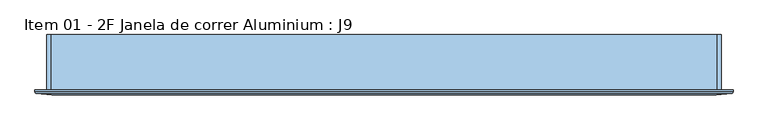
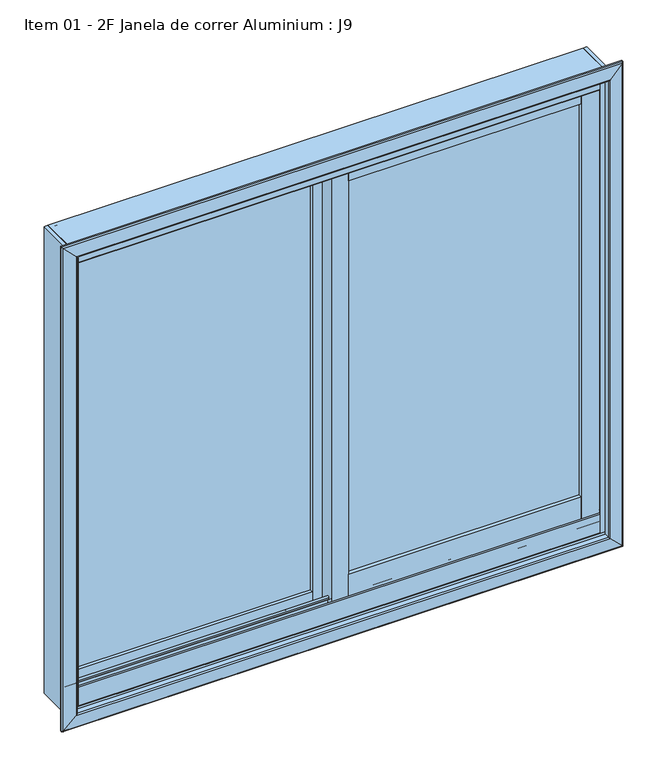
"""IFC4 building model written with IfcOpenShell, lengths in millimetres: window geometry, Item 01 - 2F Janela de correr Aluminium : J9."""

from ifc_helpers import new_model, si_unit, frame, origin, place, context, project, spatial, polyline, circle_curve, ellipse_curve, outline, extrude, source, transform, mapped, element, save
from ifc_brep_helpers import plane_surface, cylinder_surface, revolved_surface, advanced_brep


def item_01_2f_janela_de_correr_aluminium_j9_3c347c91(model_context):
    return source(origin(), model_context, "Body", "SolidModel", [
        extrude(outline(polyline([(-27.3998339, -10.3), (-27.3998339, -14.3), (-504.750983, -14.3), (-504.750983, -10.3), (-27.3998339, -10.3)])), frame((0.0, 0.0, 857.0), z_axis=(0.0, 0.0, 1.0), x_axis=(1.0, 0.0, 0.0)), (0.0, 0.0, 1.0), 880.5),
        extrude(outline(polyline([(27.2998339, -45.9), (27.2998339, -41.9), (498.868646, -41.9), (498.868646, -45.9), (27.2998339, -45.9)])), frame((0.0, 0.0, 895.5), z_axis=(0.0, 0.0, 1.0), x_axis=(1.0, 0.0, 0.0)), (0.0, 0.0, 1.0), 842.0),
        extrude(outline(polyline([(498.868646, -33.9), (498.868646, -53.9), (27.2998339, -53.9), (27.2998339, -33.9), (498.868646, -33.9)])), frame((0.0, 0.0, 847.9996573), z_axis=(0.0, 0.0, 1.0), x_axis=(1.0, 0.0, 0.0)), (0.0, 0.0, 1.0), 47.5003427),
        extrude(outline(polyline([(498.868646, -33.9), (498.868646, -53.9), (27.2998339, -53.9), (27.2998339, -33.9), (498.868646, -33.9)])), frame((0.0, 0.0, 1737.4996573), z_axis=(0.0, 0.0, 1.0), x_axis=(1.0, 0.0, 0.0)), (0.0, 0.0, 1.0), 34.5),
        extrude(outline(polyline([(-27.3998339, -2.3), (-27.3998339, -22.3), (-504.750983, -22.3), (-504.750983, -2.3), (-27.3998339, -2.3)])), frame((0.0, 0.0, 821.0), z_axis=(0.0, 0.0, 1.0), x_axis=(1.0, 0.0, 0.0)), (0.0, 0.0, 1.0), 36.0),
        extrude(outline(polyline([(-27.3998339, -2.3), (-27.3998339, -22.3), (-504.750983, -22.3), (-504.750983, -2.3), (-27.3998339, -2.3)])), frame((0.0, 0.0, 1737.5), z_axis=(0.0, 0.0, 1.0), x_axis=(1.0, 0.0, 0.0)), (0.0, 0.0, 1.0), 34.5),
        extrude(outline(polyline([(-504.750983, -22.3), (-543.0, -22.3), (-543.0, -2.3), (-504.750983, -2.3), (-504.750983, -22.3)])), frame((0.0, 0.0, 821.0), z_axis=(0.0, 0.0, 1.0), x_axis=(1.0, 0.0, 0.0)), (0.0, 0.0, 1.0), 951.0),
        extrude(outline(polyline([(-27.3998339, -22.3), (-27.3998339, -2.3), (7.6001661, -2.3), (7.6001661, -33.9), (27.2998339, -33.9), (27.2998339, -53.9), (-7.6001661, -53.9), (-7.6001661, -22.3), (-27.3998339, -22.3)])), frame((0.0, 0.0, 821.0), z_axis=(0.0, 0.0, 1.0), x_axis=(1.0, 0.0, 0.0)), (0.0, 0.0, 1.0), 951.0),
        extrude(outline(polyline([(543.0, -53.9), (498.868646, -53.9), (498.868646, -33.9), (543.0, -33.9), (543.0, -53.9)])), frame((0.0, 0.0, 821.0), z_axis=(0.0, 0.0, 1.0), x_axis=(1.0, 0.0, 0.0)), (0.0, 0.0, 1.0), 951.0),
        advanced_brep(
        [(-542.5998339, 8.5620965, 810.2470077), (-542.5998339, 8.5620965, 801.4000436), (-542.5998339, 13.600001, 801.4000436), (-542.5998339, 13.600001, 807.4000364), (-542.5998339, 14.9999993, 807.4000364), (-542.5998339, 15.0, 800.0), (-542.5998339, -75.0, 800.0), (-542.5998339, -75.0, 807.4000364), (-542.5998339, -73.6000017, 807.4000364), (-542.5998339, -73.6000017, 801.3999983), (-542.5998339, -68.6000077, 801.3999983), (-542.5998339, -68.6000077, 815.5000406), (-542.5998339, -66.9001002, 815.5000406), (-542.5998339, -66.9002002, 855.4959852), (-542.5998339, -63.9002108, 855.4999745), (-542.5998339, -63.9002039, 852.9999952), (-542.5998339, -65.5001025, 852.0762974), (-542.5998339, -65.4999102, 840.5017467), (-542.5998339, -64.5522917, 839.4937615), (-542.5998339, -42.5000392, 838.337999), (-542.5998339, -42.5000392, 852.496362), (-542.5998339, -44.7000484, 852.496362), (-542.5998339, -44.7000484, 848.6999865), (-542.5998339, -46.1007067, 848.6999865), (-542.5998339, -46.1007067, 852.4947997), (-542.5998339, -41.099933, 852.4947997), (-542.5998339, -41.099933, 838.2646991), (-542.5998339, -39.464205, 838.1789418), (-542.5998339, -35.731283, 834.861102), (-542.5998339, -32.3590937, 815.7367048), (-542.5998339, -29.9346709, 813.5917613), (-542.5998339, -14.4999651, 812.7828298), (-542.5998339, -14.4999651, 825.4891381), (-542.5998339, -9.4999947, 825.4999956), (-542.5998339, -9.4999711, 821.7000191), (-542.5998339, -10.8999694, 821.7000191), (-542.5998339, -10.8999694, 825.4963945), (-542.5998339, -13.0999825, 825.4963945), (-542.5998339, -13.0999825, 812.7095299), (-542.5998339, 7.2297593, 811.6448774), (542.5998339, 8.5620965, 810.2470077), (542.5998339, 8.5620965, 801.4000436), (542.5998339, 13.600001, 801.4000436), (542.5998339, 13.600001, 807.4000364), (542.5998339, 14.9999993, 807.4000364), (542.5998339, 15.0, 800.0), (542.5998339, -75.0, 800.0), (542.5998339, -75.0, 807.4000364), (542.5998339, -73.6000017, 807.4000364), (542.5998339, -73.6000017, 801.3999983), (542.5998339, -68.6000077, 801.3999983), (542.5998339, -68.6000077, 815.5000406), (542.5998339, -66.9001002, 815.5000406), (542.5998339, -66.9002002, 855.4959852), (542.5998339, -63.9002108, 855.4999745), (542.5998339, -63.9002039, 852.9999952), (542.5998339, -65.5001025, 852.0762974), (542.5998339, -65.4999102, 840.5017467), (542.5998339, -64.5522917, 839.4937615), (542.5998339, -42.5000392, 838.337999), (542.5998339, -42.5000392, 852.496362), (542.5998339, -44.7000484, 852.496362), (542.5998339, -44.7000484, 848.6999865), (542.5998339, -46.1007067, 848.6999865), (542.5998339, -46.1007067, 852.4947997), (542.5998339, -41.099933, 852.4947997), (542.5998339, -41.099933, 838.2646991), (542.5998339, -39.464205, 838.1789418), (542.5998339, -35.731283, 834.861102), (542.5998339, -32.3590937, 815.7367048), (542.5998339, -29.9346709, 813.5917613), (542.5998339, -14.4999651, 812.7828298), (542.5998339, -14.4999651, 825.4891381), (542.5998339, -9.4999947, 825.4999956), (542.5998339, -9.4999711, 821.7000191), (542.5998339, -10.8999694, 821.7000191), (542.5998339, -10.8999694, 825.4963945), (542.5998339, -13.0999825, 825.4963945), (542.5998339, -13.0999825, 812.7095299), (542.5998339, 7.2297593, 811.6448774)],
        [
            (0, 1),
            (1, 2),
            (2, 3),
            (3, 4),
            (4, 5),
            (5, 6),
            (6, 7),
            (7, 8),
            (8, 9),
            (9, 10),
            (10, 11),
            (11, 12),
            (12, 13),
            (13, 14, circle_curve(frame((-542.5998339, -65.4002082, 855.4999743), z_axis=(-1.0, 0.0, 0.0), x_axis=(0.0, 0.0, 1.0)), 1.4999974)),
            (14, 15),
            (15, 16),
            (16, 17),
            (17, 18, circle_curve(frame((-542.5998339, -64.4999552, 840.4923898), z_axis=(1.0, 0.0, 0.0), x_axis=(0.0, 0.0, 1.0)), 0.9999988)),
            (18, 19),
            (19, 20),
            (20, 21, circle_curve(frame((-542.5998339, -43.6000438, 852.496362), z_axis=(1.0, 0.0, 0.0), x_axis=(0.0, 0.0, 1.0)), 1.1000046)),
            (21, 22),
            (22, 23, circle_curve(frame((-542.5998339, -45.4003775, 848.6999865), z_axis=(-1.0, 0.0, 0.0), x_axis=(0.0, 0.0, 1.0)), 0.7003292)),
            (23, 24),
            (24, 25, circle_curve(frame((-542.5998339, -43.6003199, 852.4947997), z_axis=(-1.0, 0.0, 0.0), x_axis=(0.0, 0.0, 1.0)), 2.5003869)),
            (25, 26),
            (26, 27),
            (27, 28, circle_curve(frame((-542.5998339, -39.6736275, 834.1844326), z_axis=(-1.0, 0.0, 0.0), x_axis=(0.0, 0.0, 1.0)), 3.9999952)),
            (28, 29),
            (29, 30, circle_curve(frame((-542.5998339, -29.7985976, 816.188195), z_axis=(1.0, 0.0, 0.0), x_axis=(0.0, 0.0, 1.0)), 2.5999969)),
            (30, 31),
            (31, 32),
            (32, 33, circle_curve(frame((-542.5998339, -11.9999917, 825.4999955), z_axis=(-1.0, 0.0, 0.0), x_axis=(0.0, 0.0, 1.0)), 2.499997)),
            (33, 34),
            (34, 35, circle_curve(frame((-542.5998339, -10.1999703, 821.7000191), z_axis=(-1.0, 0.0, 0.0), x_axis=(0.0, 0.0, 1.0)), 0.6999992)),
            (35, 36),
            (36, 37, circle_curve(frame((-542.5998339, -11.9999759, 825.4963945), z_axis=(1.0, 0.0, 0.0), x_axis=(0.0, 0.0, 1.0)), 1.1000065)),
            (37, 38),
            (38, 39),
            (39, 0, circle_curve(frame((-542.5998339, 7.1626152, 810.2470077), z_axis=(-1.0, 0.0, 0.0), x_axis=(0.0, 0.0, 1.0)), 1.3994814)),
            (0, 40),
            (40, 41),
            (41, 1),
            (41, 42),
            (42, 2),
            (42, 43),
            (43, 3),
            (43, 44),
            (44, 4),
            (44, 45),
            (45, 5),
            (45, 46),
            (46, 6),
            (46, 47),
            (47, 7),
            (47, 48),
            (48, 8),
            (48, 49),
            (49, 9),
            (49, 50),
            (50, 10),
            (50, 51),
            (51, 11),
            (51, 52),
            (52, 12),
            (52, 53),
            (53, 13),
            (53, 54, circle_curve(frame((542.5998339, -65.4002082, 855.4999743), z_axis=(-1.0, 0.0, 0.0), x_axis=(0.0, 0.0, 1.0)), 1.4999974)),
            (54, 14),
            (54, 55),
            (55, 15),
            (55, 56),
            (56, 16),
            (56, 57),
            (57, 17),
            (57, 58, circle_curve(frame((542.5998339, -64.4999552, 840.4923898), z_axis=(1.0, 0.0, 0.0), x_axis=(0.0, 0.0, 1.0)), 0.9999988)),
            (58, 18),
            (58, 59),
            (59, 19),
            (59, 60),
            (60, 20),
            (60, 61, circle_curve(frame((542.5998339, -43.6000438, 852.496362), z_axis=(1.0, 0.0, 0.0), x_axis=(0.0, 0.0, 1.0)), 1.1000046)),
            (61, 21),
            (61, 62),
            (62, 22),
            (62, 63, circle_curve(frame((542.5998339, -45.4003775, 848.6999865), z_axis=(-1.0, 0.0, 0.0), x_axis=(0.0, 0.0, 1.0)), 0.7003292)),
            (63, 23),
            (63, 64),
            (64, 24),
            (64, 65, circle_curve(frame((542.5998339, -43.6003199, 852.4947997), z_axis=(-1.0, 0.0, 0.0), x_axis=(0.0, 0.0, 1.0)), 2.5003869)),
            (65, 25),
            (65, 66),
            (66, 26),
            (66, 67),
            (67, 27),
            (67, 68, circle_curve(frame((542.5998339, -39.6736275, 834.1844326), z_axis=(-1.0, 0.0, 0.0), x_axis=(0.0, 0.0, 1.0)), 3.9999952)),
            (68, 28),
            (68, 69),
            (69, 29),
            (69, 70, circle_curve(frame((542.5998339, -29.7985976, 816.188195), z_axis=(1.0, 0.0, 0.0), x_axis=(0.0, 0.0, 1.0)), 2.5999969)),
            (70, 30),
            (70, 71),
            (71, 31),
            (71, 72),
            (72, 32),
            (72, 73, circle_curve(frame((542.5998339, -11.9999917, 825.4999955), z_axis=(-1.0, 0.0, 0.0), x_axis=(0.0, 0.0, 1.0)), 2.499997)),
            (73, 33),
            (73, 74),
            (74, 34),
            (74, 75, circle_curve(frame((542.5998339, -10.1999703, 821.7000191), z_axis=(-1.0, 0.0, 0.0), x_axis=(0.0, 0.0, 1.0)), 0.6999992)),
            (75, 35),
            (75, 76),
            (76, 36),
            (76, 77, circle_curve(frame((542.5998339, -11.9999759, 825.4963945), z_axis=(1.0, 0.0, 0.0), x_axis=(0.0, 0.0, 1.0)), 1.1000065)),
            (77, 37),
            (77, 78),
            (78, 38),
            (78, 79),
            (79, 39),
            (79, 40, circle_curve(frame((542.5998339, 7.1626152, 810.2470077), z_axis=(-1.0, 0.0, 0.0), x_axis=(0.0, 0.0, 1.0)), 1.3994814)),
        ],
        [
            plane_surface(frame((-542.5998339, -75.0, 1800.0), z_axis=(-1.0, 0.0, 0.0), x_axis=(0.0, -1.0, 0.0))),
            plane_surface(frame((-542.5998339, 8.5620965, 810.2470077), z_axis=(0.0, 1.0, 0.0), x_axis=(1.0, 0.0, 0.0))),
            plane_surface(frame((-542.5998339, 8.5620965, 801.4000436), z_axis=(0.0, 0.0, 1.0), x_axis=(1.0, 0.0, 0.0))),
            plane_surface(frame((-542.5998339, 13.600001, 801.4000436), z_axis=(0.0, -1.0, 0.0), x_axis=(1.0, 0.0, 0.0))),
            plane_surface(frame((-542.5998339, 13.600001, 807.4000364), z_axis=(0.0, 0.0, 1.0), x_axis=(1.0, 0.0, 0.0))),
            plane_surface(frame((-542.5998339, 14.9999993, 807.4000364), z_axis=(0.0, 0.999999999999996, 9.01305508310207e-08), x_axis=(1.0, 0.0, 0.0))),
            plane_surface(frame((-542.5998339, 15.0, 800.0), z_axis=(0.0, 0.0, -1.0), x_axis=(1.0, 0.0, 0.0))),
            plane_surface(frame((-542.5998339, -75.0, 800.0), z_axis=(0.0, -1.0, 0.0), x_axis=(1.0, 0.0, 0.0))),
            plane_surface(frame((-542.5998339, -75.0, 807.4000364), z_axis=(0.0, 0.0, 1.0), x_axis=(1.0, 0.0, 0.0))),
            plane_surface(frame((-542.5998339, -73.6000017, 807.4000364), z_axis=(0.0, 1.0, 0.0), x_axis=(1.0, 0.0, 0.0))),
            plane_surface(frame((-542.5998339, -73.6000017, 801.3999983), z_axis=(0.0, 0.0, 1.0), x_axis=(1.0, 0.0, 0.0))),
            plane_surface(frame((-542.5998339, -68.6000077, 801.3999983), z_axis=(0.0, -1.0, 0.0), x_axis=(1.0, 0.0, 0.0))),
            plane_surface(frame((-542.5998339, -68.6000077, 815.5000406), z_axis=(0.0, 0.0, 1.0), x_axis=(1.0, 0.0, 0.0))),
            plane_surface(frame((-542.5998339, -66.9001002, 815.5000406), z_axis=(0.0, -0.999999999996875, -2.50000000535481e-06), x_axis=(1.0, 0.0, 0.0))),
            cylinder_surface(frame((-542.5998339, -65.4002082, 855.4999743), z_axis=(-1.0, 0.0, 0.0), x_axis=(0.0, 0.0, 1.0)), 1.4999974),
            plane_surface(frame((-542.5998339, -63.9002039, 855.4999927), z_axis=(0.0, 1.0, 0.0), x_axis=(1.0, 0.0, 0.0))),
            plane_surface(frame((-542.5998339, -63.9002039, 852.9999952), z_axis=(0.0, 0.4999983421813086, -0.8660263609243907), x_axis=(1.0, 0.0, 0.0))),
            plane_surface(frame((-542.5998339, -65.5001025, 852.0762974), z_axis=(0.0, 0.9999999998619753, 1.6614737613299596e-05), x_axis=(1.0, 0.0, 0.0))),
            revolved_surface(polyline([(542.5998339, -64.4999552, 841.4923885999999), (-542.5998339, -64.4999552, 841.4923885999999)]), (-542.5998339, -64.4999552, 840.4923898), (1.0, 0.0, 0.0)),
            plane_surface(frame((-542.5998339, -64.5523119, 839.493712), z_axis=(0.0, 0.05233606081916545, 0.9986295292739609), x_axis=(1.0, 0.0, 0.0))),
            plane_surface(frame((-542.5998339, -42.5000392, 838.337999), z_axis=(0.0, -1.0, 0.0), x_axis=(1.0, 0.0, 0.0))),
            revolved_surface(polyline([(542.5998339, -43.6000438, 853.5963666), (-542.5998339, -43.6000438, 853.5963666)]), (-542.5998339, -43.6000438, 852.496362), (1.0, 0.0, 0.0)),
            plane_surface(frame((-542.5998339, -44.7000484, 852.496362), z_axis=(0.0, 1.0, 0.0), x_axis=(1.0, 0.0, 0.0))),
            cylinder_surface(frame((-542.5998339, -45.4003775, 848.6999865), z_axis=(-1.0, 0.0, 0.0), x_axis=(0.0, 0.0, 1.0)), 0.7003292),
            plane_surface(frame((-542.5998339, -46.1007067, 848.6999865), z_axis=(0.0, -1.0, 0.0), x_axis=(1.0, 0.0, 0.0))),
            cylinder_surface(frame((-542.5998339, -43.6003199, 852.4947997), z_axis=(-1.0, 0.0, 0.0), x_axis=(0.0, 0.0, 1.0)), 2.5003869),
            plane_surface(frame((-542.5998339, -41.099933, 852.4947997), z_axis=(0.0, 1.0, 0.0), x_axis=(1.0, 0.0, 0.0))),
            plane_surface(frame((-542.5998339, -41.099933, 838.2646991), z_axis=(0.0, 0.05235569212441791, 0.998628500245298), x_axis=(1.0, 0.0, 0.0))),
            cylinder_surface(frame((-542.5998339, -39.6736275, 834.1844326), z_axis=(-1.0, 0.0, 0.0), x_axis=(0.0, 0.0, 1.0)), 3.9999952),
            plane_surface(frame((-542.5998339, -35.731283, 834.861102), z_axis=(0.0, 0.9848073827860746, 0.17365027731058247), x_axis=(1.0, 0.0, 0.0))),
            revolved_surface(polyline([(542.5998339, -29.7985976, 818.7881918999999), (-542.5998339, -29.7985976, 818.7881918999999)]), (-542.5998339, -29.7985976, 816.188195), (1.0, 0.0, 0.0)),
            plane_surface(frame((-542.5998339, -29.9346464, 813.5917288), z_axis=(0.0, 0.052336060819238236, 0.9986295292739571), x_axis=(1.0, 0.0, 0.0))),
            plane_surface(frame((-542.5998339, -14.4999651, 812.7828298), z_axis=(0.0, -1.0, 0.0), x_axis=(1.0, 0.0, 0.0))),
            cylinder_surface(frame((-542.5998339, -11.9999917, 825.4999955), z_axis=(-1.0, 0.0, 0.0), x_axis=(0.0, 0.0, 1.0)), 2.499997),
            plane_surface(frame((-542.5998339, -9.4999711, 825.5000145), z_axis=(0.0, 1.0, 0.0), x_axis=(1.0, 0.0, 0.0))),
            cylinder_surface(frame((-542.5998339, -10.1999703, 821.7000191), z_axis=(-1.0, 0.0, 0.0), x_axis=(0.0, 0.0, 1.0)), 0.6999992),
            plane_surface(frame((-542.5998339, -10.8999694, 821.7000191), z_axis=(0.0, -1.0, 0.0), x_axis=(1.0, 0.0, 0.0))),
            revolved_surface(polyline([(542.5998339, -11.9999759, 826.5964009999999), (-542.5998339, -11.9999759, 826.5964009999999)]), (-542.5998339, -11.9999759, 825.4963945), (1.0, 0.0, 0.0)),
            plane_surface(frame((-542.5998339, -13.0999825, 825.4963945), z_axis=(0.0, 1.0, 0.0), x_axis=(1.0, 0.0, 0.0))),
            plane_surface(frame((-542.5998339, -13.0999825, 812.7095299), z_axis=(0.0, 0.052297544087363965, 0.9986315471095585), x_axis=(1.0, 0.0, 0.0))),
            cylinder_surface(frame((-542.5998339, 7.1626152, 810.2470077), z_axis=(-1.0, 0.0, 0.0), x_axis=(0.0, 0.0, 1.0)), 1.3994814),
            plane_surface(frame((542.5998339, -75.0, 1800.0), z_axis=(1.0, 0.0, 0.0), x_axis=(0.0, -1.0, 0.0))),
        ],
        [
            (0, [[1, 2, 3, 4, 5, 6, 7, 8, 9, 10, 11, 12, 13, 14, 15, 16, 17, 18, 19, 20, 21, 22, 23, 24, 25, 26, 27, 28, 29, 30, 31, 32, 33, 34, 35, 36, 37, 38, 39, 40]]),
            (1, [[-1, 41, 42, 43]]),
            (2, [[-2, -43, 44, 45]]),
            (3, [[-3, -45, 46, 47]]),
            (4, [[-4, -47, 48, 49]]),
            (5, [[-5, -49, 50, 51]]),
            (6, [[-6, -51, 52, 53]]),
            (7, [[-7, -53, 54, 55]]),
            (8, [[-8, -55, 56, 57]]),
            (9, [[-9, -57, 58, 59]]),
            (10, [[-10, -59, 60, 61]]),
            (11, [[-11, -61, 62, 63]]),
            (12, [[-12, -63, 64, 65]]),
            (13, [[-13, -65, 66, 67]]),
            (14, [[-14, -67, 68, 69]]),
            (15, [[-15, -69, 70, 71]]),
            (16, [[-16, -71, 72, 73]]),
            (17, [[-17, -73, 74, 75]]),
            (18, [[-18, -75, 76, 77]]),
            (19, [[-19, -77, 78, 79]]),
            (20, [[-20, -79, 80, 81]]),
            (21, [[-21, -81, 82, 83]]),
            (22, [[-22, -83, 84, 85]]),
            (23, [[-23, -85, 86, 87]]),
            (24, [[-24, -87, 88, 89]]),
            (25, [[-25, -89, 90, 91]]),
            (26, [[-26, -91, 92, 93]]),
            (27, [[-27, -93, 94, 95]]),
            (28, [[-28, -95, 96, 97]]),
            (29, [[-29, -97, 98, 99]]),
            (30, [[-30, -99, 100, 101]]),
            (31, [[-31, -101, 102, 103]]),
            (32, [[-32, -103, 104, 105]]),
            (33, [[-33, -105, 106, 107]]),
            (34, [[-34, -107, 108, 109]]),
            (35, [[-35, -109, 110, 111]]),
            (36, [[-36, -111, 112, 113]]),
            (37, [[-37, -113, 114, 115]]),
            (38, [[-38, -115, 116, 117]]),
            (39, [[-39, -117, 118, 119]]),
            (40, [[-40, -119, 120, -41]]),
            (41, [[-120, -118, -116, -114, -112, -110, -108, -106, -104, -102, -100, -98, -96, -94, -92, -90, -88, -86, -84, -82, -80, -78, -76, -74, -72, -70, -68, -66, -64, -62, -60, -58, -56, -54, -52, -50, -48, -46, -44, -42]]),
        ],
    ),
        advanced_brep(
        [(-542.5998339, -66.8990741, 1765.5), (-542.5998339, -66.8990741, 1784.5), (-542.5998339, -68.5994745, 1784.5), (-542.5998339, -68.5994745, 1798.6), (-542.5998339, -73.5994745, 1798.6), (-542.5998339, -73.5994745, 1792.6), (-542.5998339, -74.9994395, 1792.6), (-542.5998339, -74.9994395, 1800.0), (-542.5998339, 15.0005605, 1800.0), (-542.5998339, 15.0005605, 1792.6), (-542.5998339, 13.6005455, 1792.6), (-542.5998339, 13.6005455, 1798.6), (-542.5998339, 8.6005455, 1798.6), (-542.5998339, 8.6005455, 1784.5), (-542.5998339, 6.9005605, 1784.5), (-542.5998339, 6.9005605, 1761.0), (-542.5998339, 5.5005605, 1760.0834849), (-542.5998339, 5.5005605, 1784.5), (-542.5998339, -13.0994395, 1784.5), (-542.5998339, -13.0994395, 1766.4999475), (-542.5998339, -10.8994395, 1766.4999475), (-542.5998339, -10.8994395, 1770.298754), (-542.5998339, -9.4986209, 1770.298754), (-542.5998339, -9.4986209, 1766.4999475), (-542.5998339, -14.5002581, 1766.4999475), (-542.5998339, -14.5002581, 1784.5), (-542.5998339, -41.0986209, 1784.5), (-542.5998339, -41.0986209, 1766.499981), (-542.5998339, -46.1002581, 1766.499981), (-542.5998339, -46.1002581, 1770.2997289), (-542.5998339, -44.6994395, 1770.2997289), (-542.5998339, -44.6994395, 1766.499981), (-542.5998339, -42.4994395, 1766.499981), (-542.5998339, -42.4994395, 1784.5), (-542.5998339, -65.4994049, 1784.5), (-542.5998339, -65.4994049, 1768.9237013), (-542.5998339, -63.8998049, 1768.0002013), (-542.5998339, -63.8998049, 1765.5), (542.5998339, -66.8990741, 1765.5), (542.5998339, -63.8998049, 1765.5), (542.5998339, -63.8998049, 1768.0002013), (542.5998339, -65.4994049, 1768.9237013), (542.5998339, -65.4994049, 1784.5), (542.5998339, -42.4994395, 1784.5), (542.5998339, -42.4994395, 1766.499981), (542.5998339, -44.6994395, 1766.499981), (542.5998339, -44.6994395, 1770.2997289), (542.5998339, -46.1002581, 1770.2997289), (542.5998339, -46.1002581, 1766.499981), (542.5998339, -41.0986209, 1766.499981), (542.5998339, -41.0986209, 1784.5), (542.5998339, -14.5002581, 1784.5), (542.5998339, -14.5002581, 1766.4999475), (542.5998339, -9.4986209, 1766.4999475), (542.5998339, -9.4986209, 1770.298754), (542.5998339, -10.8994395, 1770.298754), (542.5998339, -10.8994395, 1766.4999475), (542.5998339, -13.0994395, 1766.4999475), (542.5998339, -13.0994395, 1784.5), (542.5998339, 5.5005605, 1784.5), (542.5998339, 5.5005605, 1760.0834849), (542.5998339, 6.9005605, 1761.0), (542.5998339, 6.9005605, 1784.5), (542.5998339, 8.6005455, 1784.5), (542.5998339, 8.6005455, 1798.6), (542.5998339, 13.6005455, 1798.6), (542.5998339, 13.6005455, 1792.6), (542.5998339, 15.0005605, 1792.6), (542.5998339, 15.0005605, 1800.0), (542.5998339, -74.9994395, 1800.0), (542.5998339, -74.9994395, 1792.6), (542.5998339, -73.5994745, 1792.6), (542.5998339, -73.5994745, 1798.6), (542.5998339, -68.5994745, 1798.6), (542.5998339, -68.5994745, 1784.5), (542.5998339, -66.8990741, 1784.5)],
        [
            (0, 1),
            (1, 2),
            (2, 3),
            (3, 4),
            (4, 5),
            (5, 6),
            (6, 7),
            (7, 8),
            (8, 9),
            (9, 10),
            (10, 11),
            (11, 12),
            (12, 13),
            (13, 14),
            (14, 15),
            (15, 16, circle_curve(frame((-542.5998339, 5.9005605, 1761.0), z_axis=(-1.0, 0.0, 0.0), x_axis=(0.0, 0.0, 1.0)), 1.0)),
            (16, 17),
            (17, 18),
            (18, 19),
            (19, 20, circle_curve(frame((-542.5998339, -11.9994395, 1766.4999475), z_axis=(1.0, 0.0, 0.0), x_axis=(0.0, 0.0, 1.0)), 1.1)),
            (20, 21),
            (21, 22, circle_curve(frame((-542.5998339, -10.1990302, 1770.298754), z_axis=(-1.0, 0.0, 0.0), x_axis=(0.0, 0.0, 1.0)), 0.7004093)),
            (22, 23),
            (23, 24, circle_curve(frame((-542.5998339, -11.9994395, 1766.4999475), z_axis=(-1.0, 0.0, 0.0), x_axis=(0.0, 0.0, 1.0)), 2.5008186)),
            (24, 25),
            (25, 26),
            (26, 27),
            (27, 28, circle_curve(frame((-542.5998339, -43.5994395, 1766.499981), z_axis=(-1.0, 0.0, 0.0), x_axis=(0.0, 0.0, 1.0)), 2.5008186)),
            (28, 29),
            (29, 30, circle_curve(frame((-542.5998339, -45.3998488, 1770.2997289), z_axis=(-1.0, 0.0, 0.0), x_axis=(0.0, 0.0, 1.0)), 0.7004093)),
            (30, 31),
            (31, 32, circle_curve(frame((-542.5998339, -43.5994395, 1766.499981), z_axis=(1.0, 0.0, 0.0), x_axis=(0.0, 0.0, 1.0)), 1.1)),
            (32, 33),
            (33, 34),
            (34, 35),
            (35, 36),
            (36, 37),
            (37, 0, circle_curve(frame((-542.5998339, -65.3994395, 1765.5), z_axis=(-1.0, 0.0, 0.0), x_axis=(0.0, 0.0, 1.0)), 1.4996346)),
            (38, 39, circle_curve(frame((542.5998339, -65.3994395, 1765.5), z_axis=(1.0, 0.0, 0.0), x_axis=(0.0, 0.0, 1.0)), 1.4996346)),
            (39, 40),
            (40, 41),
            (41, 42),
            (42, 43),
            (43, 44),
            (44, 45, circle_curve(frame((542.5998339, -43.5994395, 1766.499981), z_axis=(-1.0, 0.0, 0.0), x_axis=(0.0, 0.0, 1.0)), 1.1)),
            (45, 46),
            (46, 47, circle_curve(frame((542.5998339, -45.3998488, 1770.2997289), z_axis=(1.0, 0.0, 0.0), x_axis=(0.0, 0.0, 1.0)), 0.7004093)),
            (47, 48),
            (48, 49, circle_curve(frame((542.5998339, -43.5994395, 1766.499981), z_axis=(1.0, 0.0, 0.0), x_axis=(0.0, 0.0, 1.0)), 2.5008186)),
            (49, 50),
            (50, 51),
            (51, 52),
            (52, 53, circle_curve(frame((542.5998339, -11.9994395, 1766.4999475), z_axis=(1.0, 0.0, 0.0), x_axis=(0.0, 0.0, 1.0)), 2.5008186)),
            (53, 54),
            (54, 55, circle_curve(frame((542.5998339, -10.1990302, 1770.298754), z_axis=(1.0, 0.0, 0.0), x_axis=(0.0, 0.0, 1.0)), 0.7004093)),
            (55, 56),
            (56, 57, circle_curve(frame((542.5998339, -11.9994395, 1766.4999475), z_axis=(-1.0, 0.0, 0.0), x_axis=(0.0, 0.0, 1.0)), 1.1)),
            (57, 58),
            (58, 59),
            (59, 60),
            (60, 61, circle_curve(frame((542.5998339, 5.9005605, 1761.0), z_axis=(1.0, 0.0, 0.0), x_axis=(0.0, 0.0, 1.0)), 1.0)),
            (61, 62),
            (62, 63),
            (63, 64),
            (64, 65),
            (65, 66),
            (66, 67),
            (67, 68),
            (68, 69),
            (69, 70),
            (70, 71),
            (71, 72),
            (72, 73),
            (73, 74),
            (74, 75),
            (75, 38),
            (0, 38),
            (75, 1),
            (74, 2),
            (73, 3),
            (72, 4),
            (71, 5),
            (70, 6),
            (69, 7),
            (68, 8),
            (67, 9),
            (66, 10),
            (65, 11),
            (64, 12),
            (63, 13),
            (62, 14),
            (61, 15),
            (60, 16),
            (59, 17),
            (58, 18),
            (57, 19),
            (56, 20),
            (55, 21),
            (54, 22),
            (53, 23),
            (52, 24),
            (51, 25),
            (50, 26),
            (49, 27),
            (48, 28),
            (47, 29),
            (46, 30),
            (45, 31),
            (44, 32),
            (43, 33),
            (42, 34),
            (41, 35),
            (40, 36),
            (39, 37),
        ],
        [
            plane_surface(frame((-542.5998339, -75.0, 1800.0), z_axis=(-1.0, 0.0, 0.0), x_axis=(0.0, -1.0, 0.0))),
            plane_surface(frame((542.5998339, -75.0, 1800.0), z_axis=(1.0, 0.0, 0.0), x_axis=(0.0, -1.0, 0.0))),
            plane_surface(frame((-542.5998339, -66.8990741, 1765.5), z_axis=(0.0, -1.0, 0.0), x_axis=(1.0, 0.0, 0.0))),
            plane_surface(frame((-542.5998339, -66.8990741, 1784.5), z_axis=(0.0, 0.0, -1.0), x_axis=(1.0, 0.0, 0.0))),
            plane_surface(frame((-542.5998339, -68.5994745, 1784.5), z_axis=(0.0, -1.0, 0.0), x_axis=(1.0, 0.0, 0.0))),
            plane_surface(frame((-542.5998339, -68.5994745, 1798.6), z_axis=(0.0, 0.0, -1.0), x_axis=(1.0, 0.0, 0.0))),
            plane_surface(frame((-542.5998339, -73.5994745, 1798.6), z_axis=(0.0, 1.0, 0.0), x_axis=(1.0, 0.0, 0.0))),
            plane_surface(frame((-542.5998339, -73.5994745, 1792.6), z_axis=(0.0, 0.0, -1.0), x_axis=(1.0, 0.0, 0.0))),
            plane_surface(frame((-542.5998339, -74.9994395, 1792.6), z_axis=(0.0, -1.0, 0.0), x_axis=(1.0, 0.0, 0.0))),
            plane_surface(frame((-542.5998339, -74.9994395, 1800.0), z_axis=(0.0, 0.0, 1.0), x_axis=(1.0, 0.0, 0.0))),
            plane_surface(frame((-542.5998339, 15.0005605, 1800.0), z_axis=(0.0, 1.0, 0.0), x_axis=(1.0, 0.0, 0.0))),
            plane_surface(frame((-542.5998339, 15.0005605, 1792.6), z_axis=(0.0, 0.0, -1.0), x_axis=(1.0, 0.0, 0.0))),
            plane_surface(frame((-542.5998339, 13.6005455, 1792.6), z_axis=(0.0, -1.0, 0.0), x_axis=(1.0, 0.0, 0.0))),
            plane_surface(frame((-542.5998339, 13.6005455, 1798.6), z_axis=(0.0, 0.0, -1.0), x_axis=(1.0, 0.0, 0.0))),
            plane_surface(frame((-542.5998339, 8.6005455, 1798.6), z_axis=(0.0, 1.0, 0.0), x_axis=(1.0, 0.0, 0.0))),
            plane_surface(frame((-542.5998339, 8.6005455, 1784.5), z_axis=(0.0, 0.0, -1.0), x_axis=(1.0, 0.0, 0.0))),
            plane_surface(frame((-542.5998339, 6.9005605, 1784.5), z_axis=(0.0, 1.0, 0.0), x_axis=(1.0, 0.0, 0.0))),
            cylinder_surface(frame((-542.5998339, 5.9005605, 1761.0), z_axis=(-1.0, 0.0, 0.0), x_axis=(0.0, 0.0, 1.0)), 1.0),
            plane_surface(frame((-542.5998339, 5.5005605, 1760.0834849), z_axis=(0.0, -1.0, 0.0), x_axis=(1.0, 0.0, 0.0))),
            plane_surface(frame((-542.5998339, 5.5005605, 1784.5), z_axis=(0.0, 0.0, -1.0), x_axis=(1.0, 0.0, 0.0))),
            plane_surface(frame((-542.5998339, -13.0994395, 1784.5), z_axis=(0.0, 1.0, 0.0), x_axis=(1.0, 0.0, 0.0))),
            revolved_surface(polyline([(542.5998339, -11.9994395, 1767.5999474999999), (-542.5998339, -11.9994395, 1767.5999474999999)]), (-542.5998339, -11.9994395, 1766.4999475), (1.0, 0.0, 0.0)),
            plane_surface(frame((-542.5998339, -10.8994395, 1766.4999475), z_axis=(0.0, -1.0, 0.0), x_axis=(1.0, 0.0, 0.0))),
            cylinder_surface(frame((-542.5998339, -10.1990302, 1770.298754), z_axis=(-1.0, 0.0, 0.0), x_axis=(0.0, 0.0, 1.0)), 0.7004093),
            plane_surface(frame((-542.5998339, -9.4986209, 1770.298754), z_axis=(0.0, 1.0, 0.0), x_axis=(1.0, 0.0, 0.0))),
            cylinder_surface(frame((-542.5998339, -11.9994395, 1766.4999475), z_axis=(-1.0, 0.0, 0.0), x_axis=(0.0, 0.0, 1.0)), 2.5008186),
            plane_surface(frame((-542.5998339, -14.5002581, 1766.4999475), z_axis=(0.0, -1.0, 0.0), x_axis=(1.0, 0.0, 0.0))),
            plane_surface(frame((-542.5998339, -14.5002581, 1784.5), z_axis=(0.0, 0.0, -1.0), x_axis=(1.0, 0.0, 0.0))),
            plane_surface(frame((-542.5998339, -41.0986209, 1784.5), z_axis=(0.0, 1.0, 0.0), x_axis=(1.0, 0.0, 0.0))),
            cylinder_surface(frame((-542.5998339, -43.5994395, 1766.499981), z_axis=(-1.0, 0.0, 0.0), x_axis=(0.0, 0.0, 1.0)), 2.5008186),
            plane_surface(frame((-542.5998339, -46.1002581, 1766.499981), z_axis=(0.0, -1.0, 0.0), x_axis=(1.0, 0.0, 0.0))),
            cylinder_surface(frame((-542.5998339, -45.3998488, 1770.2997289), z_axis=(-1.0, 0.0, 0.0), x_axis=(0.0, 0.0, 1.0)), 0.7004093),
            plane_surface(frame((-542.5998339, -44.6994395, 1770.2997289), z_axis=(0.0, 1.0, 0.0), x_axis=(1.0, 0.0, 0.0))),
            revolved_surface(polyline([(542.5998339, -43.5994395, 1767.5999809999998), (-542.5998339, -43.5994395, 1767.5999809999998)]), (-542.5998339, -43.5994395, 1766.499981), (1.0, 0.0, 0.0)),
            plane_surface(frame((-542.5998339, -42.4994395, 1766.499981), z_axis=(0.0, -1.0, 0.0), x_axis=(1.0, 0.0, 0.0))),
            plane_surface(frame((-542.5998339, -42.4994395, 1784.5), z_axis=(0.0, 0.0, -1.0), x_axis=(1.0, 0.0, 0.0))),
            plane_surface(frame((-542.5998339, -65.4994049, 1784.5), z_axis=(0.0, 1.0, 0.0), x_axis=(1.0, 0.0, 0.0))),
            plane_surface(frame((-542.5998339, -65.4994049, 1768.9237013), z_axis=(0.0, 0.49998802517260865, 0.8660323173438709), x_axis=(1.0, 0.0, 0.0))),
            plane_surface(frame((-542.5998339, -63.8998049, 1768.0002013), z_axis=(0.0, 1.0, 0.0), x_axis=(1.0, 0.0, 0.0))),
            cylinder_surface(frame((-542.5998339, -65.3994395, 1765.5), z_axis=(-1.0, 0.0, 0.0), x_axis=(0.0, 0.0, 1.0)), 1.4996346),
        ],
        [
            (0, [[1, 2, 3, 4, 5, 6, 7, 8, 9, 10, 11, 12, 13, 14, 15, 16, 17, 18, 19, 20, 21, 22, 23, 24, 25, 26, 27, 28, 29, 30, 31, 32, 33, 34, 35, 36, 37, 38]]),
            (1, [[39, 40, 41, 42, 43, 44, 45, 46, 47, 48, 49, 50, 51, 52, 53, 54, 55, 56, 57, 58, 59, 60, 61, 62, 63, 64, 65, 66, 67, 68, 69, 70, 71, 72, 73, 74, 75, 76]]),
            (2, [[-1, 77, -76, 78]]),
            (3, [[-2, -78, -75, 79]]),
            (4, [[-3, -79, -74, 80]]),
            (5, [[-4, -80, -73, 81]]),
            (6, [[-5, -81, -72, 82]]),
            (7, [[-6, -82, -71, 83]]),
            (8, [[-7, -83, -70, 84]]),
            (9, [[-8, -84, -69, 85]]),
            (10, [[-9, -85, -68, 86]]),
            (11, [[-10, -86, -67, 87]]),
            (12, [[-11, -87, -66, 88]]),
            (13, [[-12, -88, -65, 89]]),
            (14, [[-13, -89, -64, 90]]),
            (15, [[-14, -90, -63, 91]]),
            (16, [[-15, -91, -62, 92]]),
            (17, [[-16, -92, -61, 93]]),
            (18, [[-17, -93, -60, 94]]),
            (19, [[-18, -94, -59, 95]]),
            (20, [[-19, -95, -58, 96]]),
            (21, [[-20, -96, -57, 97]]),
            (22, [[-21, -97, -56, 98]]),
            (23, [[-22, -98, -55, 99]]),
            (24, [[-23, -99, -54, 100]]),
            (25, [[-24, -100, -53, 101]]),
            (26, [[-25, -101, -52, 102]]),
            (27, [[-26, -102, -51, 103]]),
            (28, [[-27, -103, -50, 104]]),
            (29, [[-28, -104, -49, 105]]),
            (30, [[-29, -105, -48, 106]]),
            (31, [[-30, -106, -47, 107]]),
            (32, [[-31, -107, -46, 108]]),
            (33, [[-32, -108, -45, 109]]),
            (34, [[-33, -109, -44, 110]]),
            (35, [[-34, -110, -43, 111]]),
            (36, [[-35, -111, -42, 112]]),
            (37, [[-36, -112, -41, 113]]),
            (38, [[-37, -113, -40, 114]]),
            (39, [[-38, -114, -39, -77]]),
        ],
    ),
        extrude(outline(polyline([(-550.0, -75.0), (-550.0, 15.0005605), (-542.5998339, 15.0005605), (-542.5998339, 8.6005605), (-529.5998339, 8.6005605), (-529.5998339, 7.2005603), (-542.5998339, 7.2005603), (-542.5998339, -67.1994395), (-529.5998339, -67.1994395), (-529.5998339, -68.5994395), (-542.5998339, -68.5994395), (-542.5998339, -75.0), (-550.0, -75.0)])), frame((0.0, 0.0, 800.0), z_axis=(0.0, 0.0, 1.0), x_axis=(1.0, 0.0, 0.0)), (0.0, 0.0, 1.0), 1000.0),
        extrude(outline(polyline([(550.0, -75.0), (542.5998339, -75.0), (542.5998339, -68.5994395), (529.5998339, -68.5994395), (529.5998339, -67.1994395), (542.5998339, -67.1994395), (542.5998339, 7.2005603), (529.5998339, 7.2005603), (529.5998339, 8.6005605), (542.5998339, 8.6005605), (542.5998339, 15.0005605), (550.0, 15.0005605), (550.0, -75.0)])), frame((0.0, 0.0, 800.0), z_axis=(0.0, 0.0, 1.0), x_axis=(1.0, 0.0, 0.0)), (0.0, 0.0, 1.0), 1000.0),
        advanced_brep(
        [(566.6179787, -80.8032791, 783.3820213), (541.6179953, -82.990685, 808.3820047), (-541.6179953, -82.990685, 808.3820047), (-566.6179787, -80.8032791, 783.3820213), (568.9000454, -78.301595, 781.0999546), (-568.9000454, -78.301595, 781.0999546), (568.9000454, -75.0, 781.0999546), (-568.9000454, -75.0, 781.0999546), (567.8000705, -78.312794, 782.1999295), (567.8000705, -75.0, 782.1999295), (-567.8000705, -75.0, 782.1999295), (-567.8000705, -78.312794, 782.1999295), (566.5220991, -79.7074657, 783.4779009), (-566.5220991, -79.7074657, 783.4779009), (541.5051608, -81.896355, 808.4948392), (-541.5051608, -81.896355, 808.4948392), (540.0000742, -80.5100572, 809.9999258), (-540.0000742, -80.5100572, 809.9999258), (540.0000742, -69.0002188, 809.9999258), (-540.0000742, -69.0002188, 809.9999258), (538.9000871, -80.5001999, 811.0999129), (538.9000871, -69.0002188, 811.0999129), (-538.9000871, -69.0002188, 811.0999129), (-538.9000871, -80.5001999, 811.0999129), (-541.6179953, -82.990685, 1791.6179953), (-566.6179787, -80.8032791, 1816.6179787), (-568.9000454, -78.301595, 1818.9000454), (-568.9000454, -75.0, 1818.9000454), (-567.8000705, -75.0, 1817.8000705), (-567.8000705, -78.312794, 1817.8000705), (-566.5220991, -79.7074657, 1816.5220991), (-541.5051608, -81.896355, 1791.5051608), (-540.0000742, -80.5100572, 1790.0000742), (-540.0000742, -69.0002188, 1790.0000742), (-538.9000871, -69.0002188, 1788.9000871), (-538.9000871, -80.5001999, 1788.9000871), (541.6179953, -82.990685, 1791.6179953), (566.6179787, -80.8032791, 1816.6179787), (568.9000454, -78.301595, 1818.9000454), (568.9000454, -75.0, 1818.9000454), (567.8000705, -75.0, 1817.8000705), (567.8000705, -78.312794, 1817.8000705), (566.5220991, -79.7074657, 1816.5220991), (541.5051608, -81.896355, 1791.5051608), (540.0000742, -80.5100572, 1790.0000742), (540.0000742, -69.0002188, 1790.0000742), (538.9000871, -69.0002188, 1788.9000871), (538.9000871, -80.5001999, 1788.9000871)],
        [
            (0, 1),
            (1, 2),
            (2, 3),
            (3, 0),
            (4, 0, ellipse_curve(frame((566.4000705, -78.312794, 783.5999295), z_axis=(-0.7071067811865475, 0.0, -0.7071067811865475), x_axis=(0.7071067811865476, 0.0, -0.7071067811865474)), 3.5355339, 2.5)),
            (3, 5, ellipse_curve(frame((-566.4000705, -78.312794, 783.5999295), z_axis=(0.7071067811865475, 0.0, -0.7071067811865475), x_axis=(0.7071067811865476, 0.0, 0.7071067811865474)), 3.5355339, 2.5)),
            (5, 4),
            (6, 4),
            (5, 7),
            (7, 6),
            (8, 9),
            (9, 10),
            (10, 11),
            (11, 8),
            (12, 8, ellipse_curve(frame((566.4000705, -78.312794, 783.5999295), z_axis=(0.7071067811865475, 0.0, 0.7071067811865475), x_axis=(-0.7071067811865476, 0.0, 0.7071067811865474)), 1.979899, 1.4)),
            (11, 13, ellipse_curve(frame((-566.4000705, -78.312794, 783.5999295), z_axis=(-0.7071067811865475, 0.0, 0.7071067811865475), x_axis=(-0.7071067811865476, 0.0, -0.7071067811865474)), 1.979899, 1.4)),
            (13, 12),
            (14, 12),
            (13, 15),
            (15, 14),
            (16, 14, ellipse_curve(frame((541.4000916, -80.5002514, 808.5999084), z_axis=(0.7071067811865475, 0.0, 0.7071067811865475), x_axis=(-0.7071067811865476, 0.0, 0.7071067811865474)), 1.9799721, 1.4000517)),
            (15, 17, ellipse_curve(frame((-541.4000916, -80.5002514, 808.5999084), z_axis=(-0.7071067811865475, 0.0, 0.7071067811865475), x_axis=(-0.7071067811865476, 0.0, -0.7071067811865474)), 1.9799721, 1.4000517)),
            (17, 16),
            (18, 16),
            (17, 19),
            (19, 18),
            (20, 21),
            (21, 22),
            (22, 23),
            (23, 20),
            (1, 20, ellipse_curve(frame((541.4000871, -80.5001999, 808.5999129), z_axis=(-0.7071067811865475, 0.0, -0.7071067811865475), x_axis=(0.7071067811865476, 0.0, -0.7071067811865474)), 3.5355339, 2.5)),
            (23, 2, ellipse_curve(frame((-541.4000871, -80.5001999, 808.5999129), z_axis=(0.7071067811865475, 0.0, -0.7071067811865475), x_axis=(0.7071067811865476, 0.0, 0.7071067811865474)), 3.5355339, 2.5)),
            (2, 24),
            (24, 25),
            (25, 3),
            (25, 26, ellipse_curve(frame((-566.4000705, -78.312794, 1816.4000705), z_axis=(-0.7071067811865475, 0.0, -0.7071067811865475), x_axis=(0.7071067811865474, 0.0, -0.7071067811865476)), 3.5355339, 2.5)),
            (26, 5),
            (26, 27),
            (27, 7),
            (10, 28),
            (28, 29),
            (29, 11),
            (29, 30, ellipse_curve(frame((-566.4000705, -78.312794, 1816.4000705), z_axis=(0.7071067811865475, 0.0, 0.7071067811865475), x_axis=(-0.7071067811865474, 0.0, 0.7071067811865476)), 1.979899, 1.4)),
            (30, 13),
            (30, 31),
            (31, 15),
            (31, 32, ellipse_curve(frame((-541.4000916, -80.5002514, 1791.4000916), z_axis=(0.7071067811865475, 0.0, 0.7071067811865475), x_axis=(-0.7071067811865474, 0.0, 0.7071067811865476)), 1.9799721, 1.4000517)),
            (32, 17),
            (32, 33),
            (33, 19),
            (22, 34),
            (34, 35),
            (35, 23),
            (35, 24, ellipse_curve(frame((-541.4000871, -80.5001999, 1791.4000871), z_axis=(-0.7071067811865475, 0.0, -0.7071067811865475), x_axis=(0.7071067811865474, 0.0, -0.7071067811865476)), 3.5355339, 2.5)),
            (24, 36),
            (36, 37),
            (37, 25),
            (37, 38, ellipse_curve(frame((566.4000705, -78.312794, 1816.4000705), z_axis=(-0.7071067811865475, 0.0, 0.7071067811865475), x_axis=(-0.7071067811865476, 0.0, -0.7071067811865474)), 3.5355339, 2.5)),
            (38, 26),
            (38, 39),
            (39, 27),
            (28, 40),
            (40, 41),
            (41, 29),
            (41, 42, ellipse_curve(frame((566.4000705, -78.312794, 1816.4000705), z_axis=(0.7071067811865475, 0.0, -0.7071067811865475), x_axis=(0.7071067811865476, 0.0, 0.7071067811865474)), 1.979899, 1.4)),
            (42, 30),
            (42, 43),
            (43, 31),
            (43, 44, ellipse_curve(frame((541.4000916, -80.5002514, 1791.4000916), z_axis=(0.7071067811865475, 0.0, -0.7071067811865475), x_axis=(0.7071067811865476, 0.0, 0.7071067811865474)), 1.9799721, 1.4000517)),
            (44, 32),
            (44, 45),
            (45, 33),
            (34, 46),
            (46, 47),
            (47, 35),
            (47, 36, ellipse_curve(frame((541.4000871, -80.5001999, 1791.4000871), z_axis=(-0.7071067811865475, 0.0, 0.7071067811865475), x_axis=(-0.7071067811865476, 0.0, -0.7071067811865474)), 3.5355339, 2.5)),
            (36, 1),
            (0, 37),
            (4, 38),
            (6, 39),
            (9, 40),
            (8, 41),
            (12, 42),
            (14, 43),
            (16, 44),
            (18, 45),
            (21, 46),
            (20, 47),
        ],
        [
            plane_surface(frame((541.6179953, -82.990685, 808.3820047), z_axis=(0.0, -0.9961940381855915, -0.08716328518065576), x_axis=(-1.0, 0.0, 0.0))),
            cylinder_surface(frame((550.0, -78.312794, 783.5999295), z_axis=(1.0, 0.0, 0.0), x_axis=(0.0, 0.0, 1.0)), 2.5),
            plane_surface(frame((568.9000454, -78.301595, 781.0999546), z_axis=(0.0, 0.0, -1.0), x_axis=(-1.0, 0.0, 0.0))),
            plane_surface(frame((567.8000705, -75.0, 782.1999295), z_axis=(0.0, 0.0, 1.0), x_axis=(-1.0, 0.0, 0.0))),
            revolved_surface(polyline([(-567.8000705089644, -78.312794, 784.9999295), (567.8000705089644, -78.312794, 784.9999295)]), (550.0, -78.312794, 783.5999295), (-1.0, 0.0, 0.0)),
            plane_surface(frame((566.5220991, -79.7074657, 783.4779009), z_axis=(0.0, 0.9961940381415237, 0.08716328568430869), x_axis=(-1.0, 0.0, 0.0))),
            revolved_surface(polyline([(-542.8001432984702, -80.5002514, 809.9999601), (542.8001432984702, -80.5002514, 809.9999601)]), (550.0, -80.5002514, 808.5999084), (-1.0, 0.0, 0.0)),
            plane_surface(frame((540.0000742, -80.5100572, 809.9999258), z_axis=(0.0, 0.0, -1.0), x_axis=(-1.0, 0.0, 0.0))),
            plane_surface(frame((538.9000871, -69.0002188, 811.0999129), z_axis=(0.0, 0.0, 1.0), x_axis=(-1.0, 0.0, 0.0))),
            cylinder_surface(frame((550.0, -80.5001999, 808.5999129), z_axis=(1.0, 0.0, 0.0), x_axis=(0.0, 0.0, 1.0)), 2.5),
            plane_surface(frame((-541.6179953, -82.990685, 808.3820047), z_axis=(-0.08716328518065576, -0.9961940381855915, 0.0), x_axis=(0.0, 0.0, 1.0))),
            cylinder_surface(frame((-566.4000705, -78.312794, 800.0), z_axis=(0.0, 0.0, -1.0), x_axis=(1.0, 0.0, 0.0)), 2.5),
            plane_surface(frame((-568.9000454, -78.301595, 781.0999546), z_axis=(-1.0, 0.0, 0.0), x_axis=(0.0, 0.0, 1.0))),
            plane_surface(frame((-567.8000705, -75.0, 782.1999295), z_axis=(1.0, 0.0, 0.0), x_axis=(0.0, 0.0, 1.0))),
            revolved_surface(polyline([(-565.0000705, -78.312794, 1817.8000705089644), (-565.0000705, -78.312794, 782.1999294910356)]), (-566.4000705, -78.312794, 800.0), (0.0, 0.0, 1.0)),
            plane_surface(frame((-566.5220991, -79.7074657, 783.4779009), z_axis=(0.08716328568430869, 0.9961940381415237, 0.0), x_axis=(0.0, 0.0, 1.0))),
            revolved_surface(polyline([(-540.0000399, -80.5002514, 1792.8001432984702), (-540.0000399, -80.5002514, 807.1998567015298)]), (-541.4000916, -80.5002514, 800.0), (0.0, 0.0, 1.0)),
            plane_surface(frame((-540.0000742, -80.5100572, 809.9999258), z_axis=(-1.0, 0.0, 0.0), x_axis=(0.0, 0.0, 1.0))),
            plane_surface(frame((-538.9000871, -69.0002188, 811.0999129), z_axis=(1.0, 0.0, 0.0), x_axis=(0.0, 0.0, 1.0))),
            cylinder_surface(frame((-541.4000871, -80.5001999, 800.0), z_axis=(0.0, 0.0, -1.0), x_axis=(1.0, 0.0, 0.0)), 2.5),
            plane_surface(frame((-541.6179953, -82.990685, 1791.6179953), z_axis=(0.0, -0.9961940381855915, 0.08716328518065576), x_axis=(1.0, 0.0, 0.0))),
            cylinder_surface(frame((-550.0, -78.312794, 1816.4000705), z_axis=(-1.0, 0.0, 0.0), x_axis=(0.0, 0.0, -1.0)), 2.5),
            plane_surface(frame((-568.9000454, -78.301595, 1818.9000454), z_axis=(0.0, 0.0, 1.0), x_axis=(1.0, 0.0, 0.0))),
            plane_surface(frame((-567.8000705, -75.0, 1817.8000705), z_axis=(0.0, 0.0, -1.0), x_axis=(1.0, 0.0, 0.0))),
            revolved_surface(polyline([(567.8000705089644, -78.312794, 1815.0000705), (-567.8000705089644, -78.312794, 1815.0000705)]), (-550.0, -78.312794, 1816.4000705), (1.0, 0.0, 0.0)),
            plane_surface(frame((-566.5220991, -79.7074657, 1816.5220991), z_axis=(0.0, 0.9961940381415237, -0.08716328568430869), x_axis=(1.0, 0.0, 0.0))),
            revolved_surface(polyline([(542.8001432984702, -80.5002514, 1790.0000399), (-542.8001432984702, -80.5002514, 1790.0000399)]), (-550.0, -80.5002514, 1791.4000916), (1.0, 0.0, 0.0)),
            plane_surface(frame((-540.0000742, -80.5100572, 1790.0000742), z_axis=(0.0, 0.0, 1.0), x_axis=(1.0, 0.0, 0.0))),
            plane_surface(frame((-538.9000871, -69.0002188, 1788.9000871), z_axis=(0.0, 0.0, -1.0), x_axis=(1.0, 0.0, 0.0))),
            cylinder_surface(frame((-550.0, -80.5001999, 1791.4000871), z_axis=(-1.0, 0.0, 0.0), x_axis=(0.0, 0.0, -1.0)), 2.5),
            plane_surface(frame((541.6179953, -82.990685, 1791.6179953), z_axis=(0.08716328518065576, -0.9961940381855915, 0.0), x_axis=(0.0, 0.0, -1.0))),
            cylinder_surface(frame((566.4000705, -78.312794, 1800.0), z_axis=(0.0, 0.0, 1.0), x_axis=(-1.0, 0.0, 0.0)), 2.5),
            plane_surface(frame((568.9000454, -78.301595, 1818.9000454), z_axis=(1.0, 0.0, 0.0), x_axis=(0.0, 0.0, -1.0))),
            plane_surface(frame((568.9000454, -75.0, 1818.9000454), z_axis=(0.0, 1.0, 0.0), x_axis=(0.0, 0.0, -1.0))),
            plane_surface(frame((567.8000705, -75.0, 1817.8000705), z_axis=(-1.0, 0.0, 0.0), x_axis=(0.0, 0.0, -1.0))),
            revolved_surface(polyline([(565.0000705, -78.312794, 782.1999294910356), (565.0000705, -78.312794, 1817.8000705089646)]), (566.4000705, -78.312794, 1800.0), (0.0, 0.0, -1.0)),
            plane_surface(frame((566.5220991, -79.7074657, 1816.5220991), z_axis=(-0.08716328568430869, 0.9961940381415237, 0.0), x_axis=(0.0, 0.0, -1.0))),
            revolved_surface(polyline([(540.0000399, -80.5002514, 807.1998567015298), (540.0000399, -80.5002514, 1792.8001432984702)]), (541.4000916, -80.5002514, 1800.0), (0.0, 0.0, -1.0)),
            plane_surface(frame((540.0000742, -80.5100572, 1790.0000742), z_axis=(1.0, 0.0, 0.0), x_axis=(0.0, 0.0, -1.0))),
            plane_surface(frame((540.0000742, -69.0002188, 1790.0000742), z_axis=(0.0, 1.0, 0.0), x_axis=(0.0, 0.0, -1.0))),
            plane_surface(frame((538.9000871, -69.0002188, 1788.9000871), z_axis=(-1.0, 0.0, 0.0), x_axis=(0.0, 0.0, -1.0))),
            cylinder_surface(frame((541.4000871, -80.5001999, 1800.0), z_axis=(0.0, 0.0, 1.0), x_axis=(-1.0, 0.0, 0.0)), 2.5),
        ],
        [
            (0, [[1, 2, 3, 4]]),
            (1, [[5, -4, 6, 7]]),
            (2, [[8, -7, 9, 10]]),
            (3, [[11, 12, 13, 14]]),
            (4, [[15, -14, 16, 17]]),
            (5, [[18, -17, 19, 20]]),
            (6, [[21, -20, 22, 23]]),
            (7, [[24, -23, 25, 26]]),
            (8, [[27, 28, 29, 30]]),
            (9, [[31, -30, 32, -2]]),
            (10, [[-3, 33, 34, 35]]),
            (11, [[-6, -35, 36, 37]]),
            (12, [[-9, -37, 38, 39]]),
            (13, [[-13, 40, 41, 42]]),
            (14, [[-16, -42, 43, 44]]),
            (15, [[-19, -44, 45, 46]]),
            (16, [[-22, -46, 47, 48]]),
            (17, [[-25, -48, 49, 50]]),
            (18, [[-29, 51, 52, 53]]),
            (19, [[-32, -53, 54, -33]]),
            (20, [[-34, 55, 56, 57]]),
            (21, [[-36, -57, 58, 59]]),
            (22, [[-38, -59, 60, 61]]),
            (23, [[-41, 62, 63, 64]]),
            (24, [[-43, -64, 65, 66]]),
            (25, [[-45, -66, 67, 68]]),
            (26, [[-47, -68, 69, 70]]),
            (27, [[-49, -70, 71, 72]]),
            (28, [[-52, 73, 74, 75]]),
            (29, [[-54, -75, 76, -55]]),
            (30, [[-56, 77, -1, 78]]),
            (31, [[-58, -78, -5, 79]]),
            (32, [[-60, -79, -8, 80]]),
            (33, [[-39, -61, -80, -10], [81, -62, -40, -12]]),
            (34, [[-63, -81, -11, 82]]),
            (35, [[-65, -82, -15, 83]]),
            (36, [[-67, -83, -18, 84]]),
            (37, [[-69, -84, -21, 85]]),
            (38, [[-71, -85, -24, 86]]),
            (39, [[-50, -72, -86, -26], [87, -73, -51, -28]]),
            (40, [[-74, -87, -27, 88]]),
            (41, [[-76, -88, -31, -77]]),
        ],
    ),
    ])


if __name__ == "__main__":
    model = new_model("IFC4")
    model_context = context("Model", 3, world=origin())
    ifc_project = project(units=[si_unit("LENGTHUNIT", "METRE", prefix="MILLI")], contexts=[model_context])
    site = spatial("IfcSite", under=ifc_project)
    building = spatial("IfcBuilding", under=site)
    placement = place(None, origin())
    item_01_2f_janela_de_correr_aluminium_j9_shape = item_01_2f_janela_de_correr_aluminium_j9_3c347c91(model_context)
    element("IfcWindow", 1, ObjectType="Item 01 - 2F Janela de correr Aluminium : J9", at=placement, inside=building, context=model_context, shape_type="MappedRepresentation", body=[
        mapped(item_01_2f_janela_de_correr_aluminium_j9_shape, transform((0.0, 0.0, 0.0), x_axis=(1.0, 0.0, 0.0), y_axis=(0.0, 1.0, 0.0), z_axis=(0.0, 0.0, 1.0))),
    ])
    save(model, "model.ifc")
